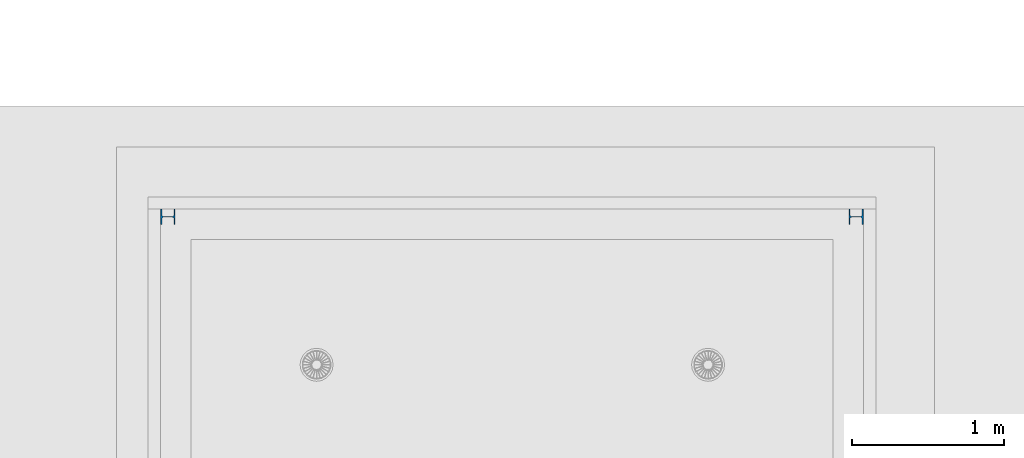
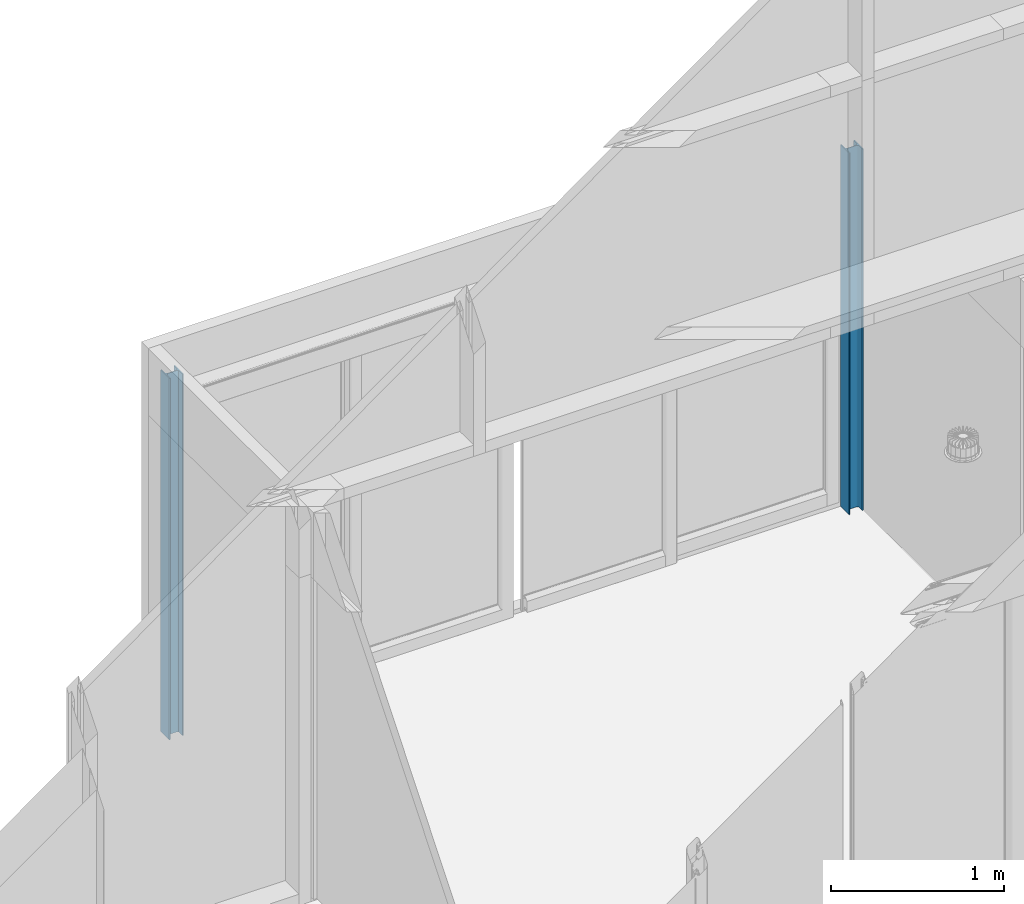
# One storey, part 32 of 302: 2 columns.
"""IFC2X3 building model written with IfcOpenShell, lengths in metres."""

from ifc_helpers import new_model, entity, si_unit, converted_unit, derived_unit, direction, frame, frame_2d, origin, place, context, subcontext, project, spatial, polyline, circle_curve, parameter, trimmed, segment, composite_curve, i_section, outline, extrude, source, transform, mapped, material, type_object, type_shapes, element, save


model = new_model("IFC2X3")

# Units and contexts
model_context = context("Model", 3, precision=1e-05, world=origin(), true_north=direction((6.12303176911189e-17, 1.0)))
body_context = subcontext(model_context, "Body", "Model", "MODEL_VIEW")
ifc_project = project(units=[si_unit("LENGTHUNIT", "METRE"), si_unit("AREAUNIT", "SQUARE_METRE"), si_unit("VOLUMEUNIT", "CUBIC_METRE"), converted_unit("PLANEANGLEUNIT", "DEGREE", entity("IfcRatioMeasure", 0.0174532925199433), si_unit("PLANEANGLEUNIT", "RADIAN"), dimensions=[0, 0, 0, 0, 0, 0, 0]), si_unit("MASSUNIT", "GRAM", prefix="KILO"), derived_unit("MASSDENSITYUNIT", [(si_unit("MASSUNIT", "GRAM", prefix="KILO"), 1), (si_unit("LENGTHUNIT", "METRE"), -3)]), derived_unit("MOMENTOFINERTIAUNIT", [(si_unit("LENGTHUNIT", "METRE"), 4)]), si_unit("TIMEUNIT", "SECOND"), si_unit("FREQUENCYUNIT", "HERTZ"), si_unit("THERMODYNAMICTEMPERATUREUNIT", "DEGREE_CELSIUS"), derived_unit("THERMALTRANSMITTANCEUNIT", [(si_unit("MASSUNIT", "GRAM", prefix="KILO"), 1), (si_unit("THERMODYNAMICTEMPERATUREUNIT", "KELVIN"), -1), (si_unit("TIMEUNIT", "SECOND"), -3)]), derived_unit("VOLUMETRICFLOWRATEUNIT", [(si_unit("LENGTHUNIT", "METRE"), 3), (si_unit("TIMEUNIT", "SECOND"), -1)]), si_unit("ELECTRICCURRENTUNIT", "AMPERE"), si_unit("ELECTRICVOLTAGEUNIT", "VOLT"), si_unit("POWERUNIT", "WATT"), si_unit("FORCEUNIT", "NEWTON", prefix="KILO"), si_unit("ILLUMINANCEUNIT", "LUX"), si_unit("LUMINOUSFLUXUNIT", "LUMEN"), si_unit("LUMINOUSINTENSITYUNIT", "CANDELA"), derived_unit("USERDEFINED", [(si_unit("MASSUNIT", "GRAM", prefix="KILO"), -1), (si_unit("LENGTHUNIT", "METRE"), -2), (si_unit("TIMEUNIT", "SECOND"), 3), (si_unit("LUMINOUSFLUXUNIT", "LUMEN"), 1)]), derived_unit("LINEARVELOCITYUNIT", [(si_unit("LENGTHUNIT", "METRE"), 1), (si_unit("TIMEUNIT", "SECOND"), -1)]), si_unit("PRESSUREUNIT", "PASCAL"), derived_unit("USERDEFINED", [(si_unit("LENGTHUNIT", "METRE"), -2), (si_unit("MASSUNIT", "GRAM", prefix="KILO"), 1), (si_unit("TIMEUNIT", "SECOND"), -2)]), derived_unit("LINEARFORCEUNIT", [(si_unit("MASSUNIT", "GRAM", prefix="KILO"), 1), (si_unit("LENGTHUNIT", "METRE"), 1), (si_unit("TIMEUNIT", "SECOND"), -2), (si_unit("LENGTHUNIT", "METRE"), -1)]), derived_unit("PLANARFORCEUNIT", [(si_unit("MASSUNIT", "GRAM", prefix="KILO"), 1), (si_unit("LENGTHUNIT", "METRE"), 1), (si_unit("TIMEUNIT", "SECOND"), -2), (si_unit("LENGTHUNIT", "METRE"), -2)])], contexts=[model_context])

# Site, building, storey
site_placement = place(None, origin())
site = spatial("IfcSite", under=ifc_project, at=site_placement, Name="Default", CompositionType="ELEMENT")
building_placement = place(site_placement, origin())
building = spatial("IfcBuilding", under=site, at=building_placement, CompositionType="ELEMENT")
storey_placement = place(building_placement, frame((0.0, 0.0, -1.3)))
storey = spatial("IfcBuildingStorey", under=building, at=storey_placement, Name="00_EG", CompositionType="ELEMENT", Elevation=-1.3)

# Columns
ifc_material = material(Name="Metall - Baustahl S235")
column_type_1 = type_object("IfcColumnType", Name="HEA Stütze:HEA 100", PredefinedType="COLUMN", material=ifc_material)
shared_shape_1 = source(origin(), body_context, "Body", "SweptSolid", [
    extrude(outline(composite_curve([segment(polyline([(0.04, -0.05), (0.048, -0.05)]), True, "CONTINUOUS"), segment(polyline([(0.048, -0.05), (0.048, 0.05)]), True, "CONTINUOUS"), segment(polyline([(0.048, 0.05), (0.04, 0.05)]), True, "CONTINUOUS"), segment(polyline([(0.04, 0.05), (0.04, 0.0145)]), True, "CONTINUOUS"), segment(trimmed(circle_curve(frame_2d((0.028, 0.0145), x_axis=(1.0, 0.0)), 0.012), [parameter(270.0)], [parameter(0.0)], True, "PARAMETER"), False, "CONTINUOUS"), segment(polyline([(0.028, 0.0025), (-0.028, 0.0025)]), True, "CONTINUOUS"), segment(trimmed(circle_curve(frame_2d((-0.028, 0.0145), x_axis=(0.0, -1.0)), 0.012), [parameter(270.0)], [parameter(0.0)], True, "PARAMETER"), False, "CONTINUOUS"), segment(polyline([(-0.04, 0.0145), (-0.04, 0.05)]), True, "CONTINUOUS"), segment(polyline([(-0.04, 0.05), (-0.048, 0.05)]), True, "CONTINUOUS"), segment(polyline([(-0.048, 0.05), (-0.048, -0.05)]), True, "CONTINUOUS"), segment(polyline([(-0.048, -0.05), (-0.04, -0.05)]), True, "CONTINUOUS"), segment(polyline([(-0.04, -0.05), (-0.04, -0.0145)]), True, "CONTINUOUS"), segment(trimmed(circle_curve(frame_2d((-0.028, -0.0145), x_axis=(-1.0, 0.0)), 0.012), [parameter(269.999999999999)], [parameter(0.0)], True, "PARAMETER"), False, "CONTINUOUS"), segment(polyline([(-0.028, -0.0025), (0.028, -0.0025)]), True, "CONTINUOUS"), segment(trimmed(circle_curve(frame_2d((0.028, -0.0145), x_axis=(0.0, 1.0)), 0.012), [parameter(270.0)], [parameter(0.0)], True, "PARAMETER"), False, "CONTINUOUS"), segment(polyline([(0.04, -0.0145), (0.04, -0.05)]), True, "CONTINUOUS")], self_intersect=False)), frame((0.0, 0.0, -0.0300000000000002), z_axis=(0.0, 0.0, 1.0), x_axis=(0.0, -1.0, 0.0)), (0.0, 0.0, 1.0), 2.55),
])
type_shapes(column_type_1, [shared_shape_1])
column_1_placement = place(storey_placement, frame((-234.521861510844, 47.608088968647, 1.3), z_axis=(0.0, 0.0, 1.0), x_axis=(0.0, 1.0, 0.0)))
element("IfcColumn", 1, at=column_1_placement, inside=storey, type_object=column_type_1, material=ifc_material, Name="HEA Stütze:HEA 100", ObjectType="HEA Stütze:HEA 100", context=body_context, shape_type="MappedRepresentation", body=[
    mapped(shared_shape_1, transform((0.0, 0.0, 0.0), scale=1.0)),
])
column_type_2 = type_object("IfcColumnType", Name="HEA Stütze:HEA 100", PredefinedType="COLUMN", material=ifc_material)
shared_shape_2 = source(origin(), body_context, "Body", "SweptSolid", [
    extrude(i_section(OverallWidth=0.1, OverallDepth=0.096, WebThickness=0.005, FlangeThickness=0.008, FilletRadius=0.012, at=frame_2d((0.0, 0.0), x_axis=(0.0, 1.0))), frame((0.0, 0.0, -0.0300000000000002), z_axis=(0.0, 0.0, 1.0), x_axis=(0.0, -1.0, 0.0)), (0.0, 0.0, 1.0), 2.55),
])
type_shapes(column_type_2, [shared_shape_2])
column_2_placement = place(storey_placement, frame((-229.985861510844, 47.608088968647, 1.3), z_axis=(0.0, 0.0, 1.0), x_axis=(0.0, 1.0, 0.0)))
element("IfcColumn", 2, at=column_2_placement, inside=storey, type_object=column_type_2, material=ifc_material, Name="HEA Stütze:HEA 100", ObjectType="HEA Stütze:HEA 100", context=body_context, shape_type="MappedRepresentation", body=[
    mapped(shared_shape_2, transform((0.0, 0.0, 0.0), scale=1.0)),
])

save(model, "model.ifc")
